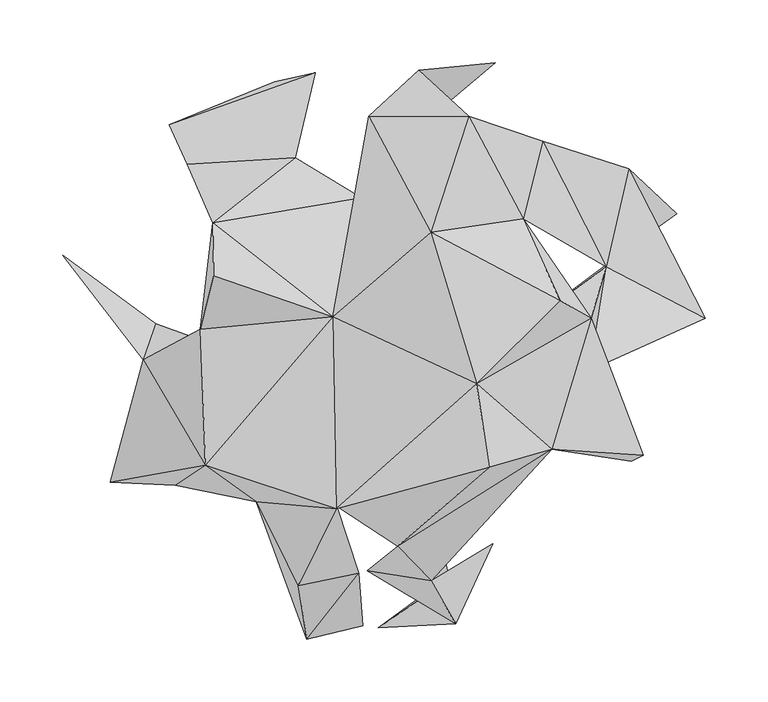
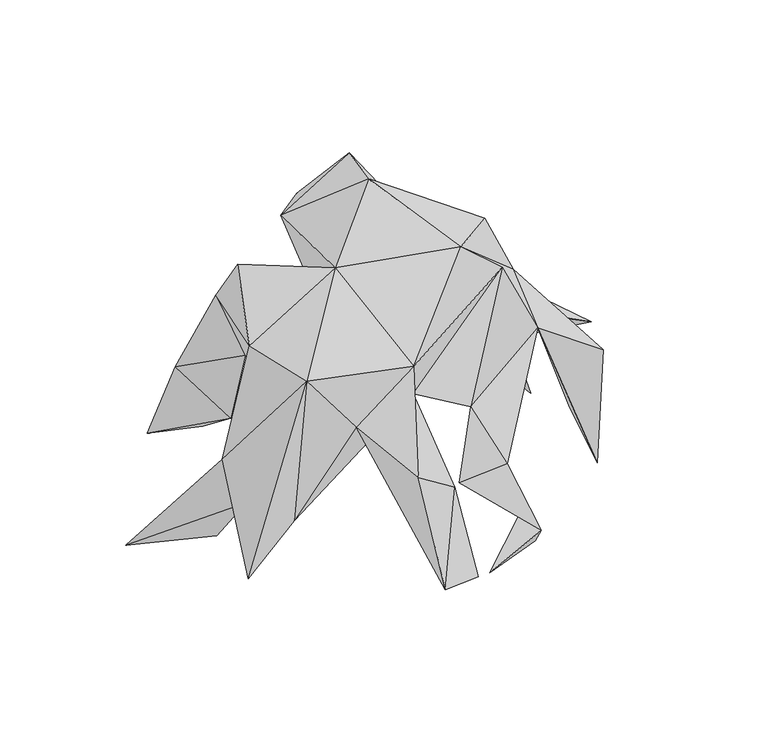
"""IFC4 building model written with IfcOpenShell, lengths in millimetres: geographic element geometry, Enscape AssetDefinition - Potted Plant 230 Grapevines : Enscape AssetDefinition - Potted Plant 230 Grapevines."""

from ifc_helpers import new_model, si_unit, origin, place, context, project, spatial, triangles, source, transform, mapped, element, save


def geographic_element_20805260(model_context):
    return source(origin(), model_context, "Body", "Tessellation", [
        triangles([(197.7290101, -108.4629925, -101.3199965), (207.0599994, -103.9829971, 31.6519992), (164.279998, -36.0089985, 48.8599991), (134.0249951, -99.1000012, 81.0599959), (176.1470062, -90.3230024, -37.0820025), (165.5610063, 5.3390001, 78.741996), (256.6890195, 5.6749999, -17.6449997), (104.1679967, -6.4579997, 79.0319947), (195.5460038, 124.918002, -2.6070002), (194.6610106, 60.7739975, -49.3830004), (234.0820055, 88.9689971, -148.3560063), (176.2530135, 114.6200023, -84.8710005), (177.544995, 46.4870017, 2.1), (137.5440027, 111.011002, 0.367), (111.2819974, 84.7650023, 92.0900003), (126.7980017, 146.6680007, 66.0879991), (140.9820014, 19.6199984, 141.5330034), (37.4659998, 74.2299985, 193.3609991), (67.7410005, 166.6190085, 158.7080089), (28.1620006, 203.437001, 100.0369989), (74.4410004, -46.6219998, 170.0209993), (-101.6509992, -140.8080023, 66.5299961), (-37.7800023, -146.373006, 122.7219968), (-142.4710003, -112.0059994, 119.7839948), (-67.9000024, -208.1059929, 33.5440008), (11.1819994, -176.5430031, 73.7140008), (84.2029999, -113.4169961, 181.8510003), (-13.0060001, -195.802002, 0.867), (32.6009988, -109.8820011, 84.7440006), (-37.1979997, -144.6409987, 87.6479931), (-3.3849999, -41.4279991, 4.0660002), (-114.0839976, 61.0829994, 36.9919985), (43.4049996, 21.4990011, 15.768001), (57.6809996, 149.0249971, 74.4910018), (-12.0479996, 166.4749948, 109.6970015), (-40.5430013, 6.6600001, 152.1379975), (-17.6640006, 101.4510023, 72.925), (-70.4160053, 133.728002, 41.4229985), (-35.546999, 25.4430009, -10.1929995), (-101.4079998, 112.5949987, -76.0440003), (-156.7350007, 128.2310083, -2.854), (-86.8870021, 194.1880016, -140.5210012), (-170.9180012, 159.7129984, -99.0149955), (-54.5299973, 201.4349975, -133.1800067), (-136.2860036, 81.4850063, 106.5769976), (-146.3200023, -3.4600001, 99.131004), (-128.6730053, -17.8859995, 44.0550008), (-166.1739957, -127.8570032, -34.008001), (-166.5080051, -31.4650012, -69.9390041), (-181.8899878, 1.195, -124.7650044), (-256.0549921, 55.605999, -143.430989), (-191.9209888, -27.5719998, -9.8780001), (-217.9850048, -125.337008, -88.2330046), (-20.0010003, -197.9460026, -1.085), (-61.2959997, -250.5469889, -81.1299952), (-16.7179998, -239.6429851, -87.3129936), (-135.4830003, 39.3210011, 169.7989925), (88.9950039, 209.3650004, -81.105996), (43.7869984, 171.1190064, -38.7340002), (57.5749968, -238.1450024, -57.1240023), (37.8409996, -203.8089987, 11.2420009), (-4.2170002, -241.5080057, -85.5719934), (52.4020022, -202.6799978, -57.708001), (87.2550029, -174.4509978, -118.8940056)], [[64, 62, 63], [62, 60, 63], [63, 60, 28], [64, 60, 62], [28, 60, 61], [63, 61, 64], [60, 64, 61], [59, 58, 20], [35, 58, 59], [20, 58, 35], [45, 46, 57], [45, 57, 36], [46, 36, 57], [36, 46, 24], [55, 56, 54], [25, 55, 54], [22, 55, 25], [54, 56, 22], [56, 55, 22], [30, 54, 22], [25, 54, 30], [24, 53, 48], [24, 48, 22], [30, 22, 48], [52, 53, 24], [52, 48, 53], [52, 24, 46], [50, 51, 52], [49, 48, 52], [51, 50, 49], [51, 49, 52], [47, 50, 52], [48, 49, 47], [30, 48, 47], [47, 52, 46], [49, 50, 47], [32, 46, 45], [47, 46, 32], [45, 41, 32], [44, 43, 41], [44, 42, 43], [43, 42, 40], [41, 40, 32], [41, 43, 40], [40, 42, 44], [45, 38, 41], [38, 44, 41], [32, 40, 38], [40, 44, 38], [39, 32, 38], [35, 37, 36], [45, 37, 38], [37, 45, 36], [39, 38, 37], [34, 59, 20], [34, 37, 35], [34, 35, 59], [33, 39, 37], [33, 37, 34], [47, 32, 31], [39, 31, 32], [31, 39, 33], [30, 47, 31], [8, 33, 34], [31, 33, 8], [29, 30, 31], [8, 29, 31], [4, 29, 8], [4, 61, 29], [61, 63, 29], [63, 28, 26], [28, 61, 26], [29, 26, 30], [63, 26, 29], [26, 61, 4], [26, 27, 30], [26, 4, 27], [23, 25, 30], [22, 23, 24], [24, 23, 36], [22, 25, 23], [30, 27, 23], [21, 23, 27], [27, 4, 21], [23, 21, 36], [6, 8, 34], [13, 8, 6], [21, 4, 6], [21, 6, 17], [35, 36, 18], [36, 21, 18], [18, 21, 17], [19, 20, 35], [19, 34, 20], [35, 18, 19], [15, 6, 34], [15, 19, 18], [18, 17, 15], [17, 6, 15], [19, 16, 34], [15, 16, 19], [13, 16, 15], [14, 13, 15], [34, 16, 14], [15, 34, 14], [14, 10, 13], [13, 10, 8], [14, 12, 10], [11, 10, 12], [13, 9, 16], [11, 12, 9], [10, 11, 9], [9, 14, 16], [12, 14, 9], [7, 10, 9], [13, 7, 9], [3, 4, 8], [3, 7, 13], [8, 10, 3], [7, 3, 10], [3, 13, 6], [5, 4, 3], [5, 1, 4], [4, 2, 6], [2, 3, 6], [2, 5, 3], [1, 2, 4], [2, 1, 5]]),
    ])


if __name__ == "__main__":
    model = new_model("IFC4")
    model_context = context("Model", 3, world=origin())
    ifc_project = project(units=[si_unit("LENGTHUNIT", "METRE", prefix="MILLI")], contexts=[model_context])
    site = spatial("IfcSite", under=ifc_project)
    building = spatial("IfcBuilding", under=site)
    placement = place(None, origin())
    geographic_element_shape = geographic_element_20805260(model_context)
    element("IfcGeographicElement", 1, ObjectType="Enscape AssetDefinition - Potted Plant 230 Grapevines : Enscape AssetDefinition - Potted Plant 230 Grapevines", at=placement, inside=building, context=model_context, shape_type="MappedRepresentation", body=[
        mapped(geographic_element_shape, transform((0.0, 0.0, 0.0), x_axis=(1.0, 0.0, 0.0), y_axis=(0.0, 1.0, 0.0), z_axis=(0.0, 0.0, 1.0))),
    ])
    save(model, "model.ifc")
